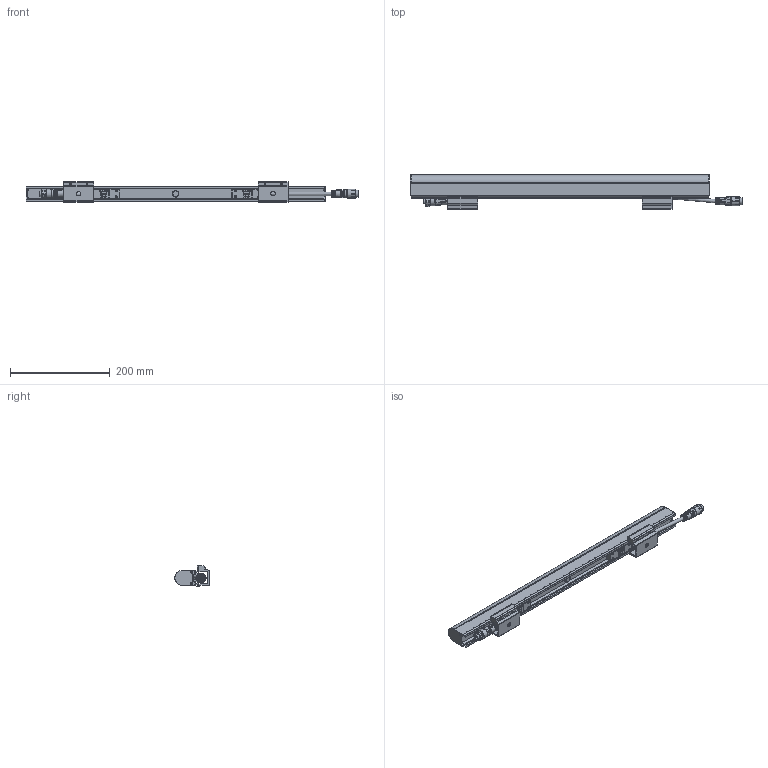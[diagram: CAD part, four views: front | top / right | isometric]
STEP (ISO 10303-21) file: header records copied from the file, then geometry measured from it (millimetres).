
FILE_DESCRIPTION (( 'STEP AP214' ), '1' );
FILE_NAME ('E series 2 Dome L600.STEP', '2025-11-24T13:35:03', ( '' ), ( '' ), 'SwSTEP 2.0', 'SolidWorks 2025', '' );
FILE_SCHEMA (( 'AUTOMOTIVE_DESIGN' ));
Length unit declared in the file: millimetre
Products named in the file (12): E series 2 with dome cover body and bare config_600mm; D & E Series 2 breathing valve; E series 2 Dome L600; Part1^E series 2; E series 2 mounting clip bottom; Part2^E series 2; E series 2 mounting clip top; M16 5p Male; E series 2 with dome cover body and bare config_Bare 600mm; Counter sunk screw torx_M3x16; Counter sunk screw torx_M2.5x16; M16 5p Female
Assembly tree (27 placements, depth 2):
  E series 2 Dome L600
    E series 2 with dome cover body and bare config_600mm
    E series 2 with dome cover body and bare config_Bare 600mm
    Counter sunk screw torx_M2.5x16  x12
    E series 2 mounting clip bottom  x2
    E series 2 mounting clip top  x2
    Counter sunk screw torx_M3x16  x4
    M16 5p Female
    Part2^E series 2
    M16 5p Male
    Part1^E series 2
    D & E Series 2 breathing valve
Bounding box: 665.7 x 68.7 x 41.7 mm (x, y, z)
Volume: 708894.9 mm3; surface area: 171196.1 mm2
Topology: 29 solids, 32 shells, 1766 faces, 4397 edges, 2780 vertices
Faces by surface type: cylinder 734, plane 629, torus 133, bspline 130, cone 118, sphere 22
Full cylindrical faces by diameter (mm): 2.4 x2, 2.5 x12, 3 x4, 4.5 x12, 5.81 x4, 9.2 x1, 11.1 x1, 14.25 x1, 14.3 x1, 18 x1
Entity records: 61583 total; most frequent: CARTESIAN_POINT 20283, ORIENTED_EDGE 6956, DIRECTION 6534, EDGE_CURVE 3478, AXIS2_PLACEMENT_3D 2523, VERTEX_POINT 2206, EDGE_LOOP 1572, LINE 1488
